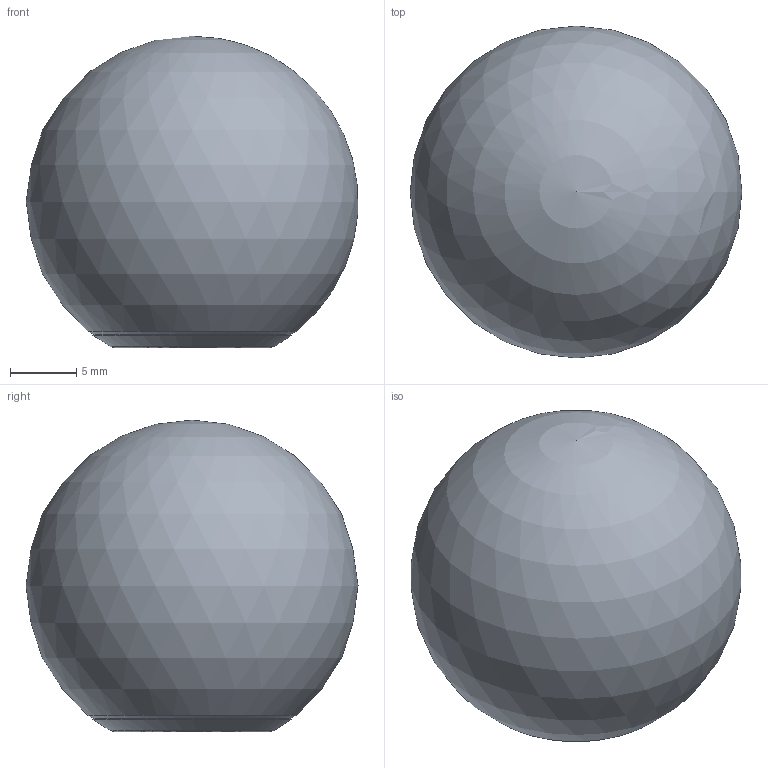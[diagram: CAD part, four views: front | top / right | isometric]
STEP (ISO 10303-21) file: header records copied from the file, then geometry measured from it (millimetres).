
FILE_DESCRIPTION(('Open CASCADE Model'),'2;1');
FILE_NAME('FL-BALL-S-knob-25','2026-10-19T21:23:54',('Author'),( 'Open CASCADE'),'Open CASCADE STEP processor 8.0','build123d', 'Unknown');
FILE_SCHEMA(('AUTOMOTIVE_DESIGN { 1 0 10303 214 1 1 1 1 }'));
Length unit declared in the file: millimetre
Products named in the file (2): FL-BALL-S-knob-25; brass_FL-BALLS25__k
Assembly tree (1 placements, depth 2):
  FL-BALL-S-knob-25
    brass_FL-BALLS25__k
Bounding box: 24.97 x 25 x 23.47 mm (x, y, z)
Volume: 7981.1 mm3; surface area: 2086.3 mm2
Topology: 1 solids, 1 shells, 11 faces, 19 edges, 11 vertices
Faces by surface type: plane 3, cylinder 3, sphere 2, cone 2, bspline 1
Full cylindrical faces by diameter (mm): 3.3 x1, 5.1 x1, 15.691 x1
Entity records: 621 total; most frequent: CARTESIAN_POINT 196, DIRECTION 81, ORIENTED_EDGE 36, PCURVE 36, DEFINITIONAL_REPRESENTATION 36, LINE 33, VECTOR 33, AXIS2_PLACEMENT_3D 22
